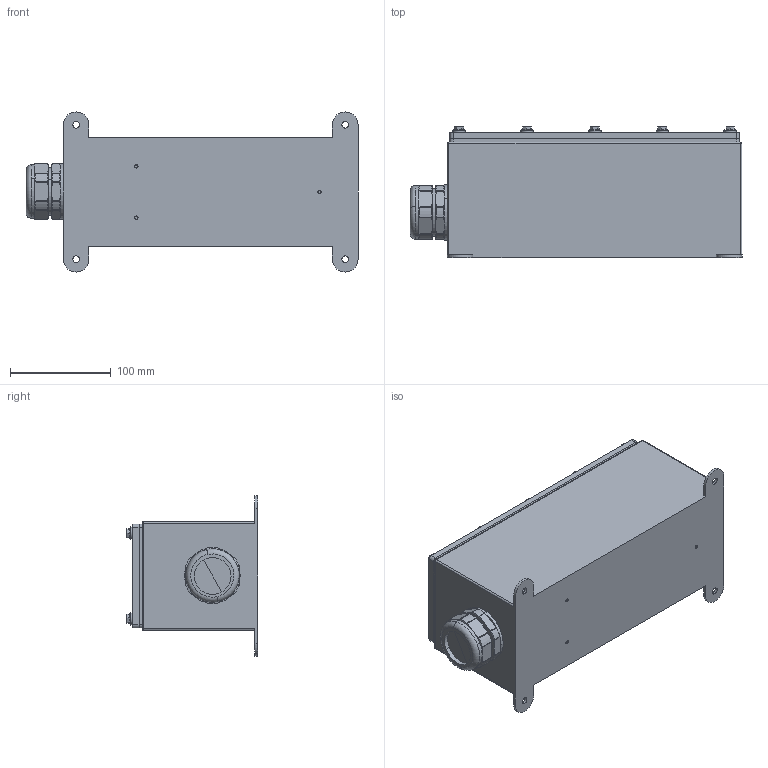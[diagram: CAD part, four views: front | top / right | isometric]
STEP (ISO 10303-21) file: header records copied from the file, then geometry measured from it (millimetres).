
FILE_DESCRIPTION (( 'STEP AP203' ), '1' );
FILE_NAME ('LL-EF.STEP', '2022-02-17T19:06:05', ( '' ), ( '' ), 'SwSTEP 2.0', 'SolidWorks 2021', '' );
FILE_SCHEMA (( 'CONFIG_CONTROL_DESIGN' ));
Length unit declared in the file: inch
Products named in the file (17): 400102; PG36-01-01-01-01; 200636; PG36-S01; SP-M5-2; 500211; PG36-B01; PG36-I01; 93805A256_93805A256; 800005; 400053; 200637; 800004; PG36-N01; LL-EF; 200292; 93625A150
Assembly tree (38 placements, depth 3):
  LL-EF
    200637
      200636
      SP-M5-2  x10
      93805A256_93805A256  x3
    200292
    400053
    500211
    PG36-01-01-01-01
      PG36-B01
      PG36-I01
      PG36-S01
      PG36-N01
    93625A150  x3
    800004  x10
      800005
      400102
Bounding box: 329.1 x 129.88 x 158.75 mm (x, y, z)
Volume: 644641.4 mm3; surface area: 438871.7 mm2
Topology: 48 solids, 48 shells, 2111 faces, 5495 edges, 3585 vertices
Faces by surface type: cylinder 984, plane 799, cone 275, bspline 38, torus 11, sphere 4
Entity records: 27240 total; most frequent: CARTESIAN_POINT 10668, ORIENTED_EDGE 3020, DIRECTION 2905, EDGE_CURVE 1510, AXIS2_PLACEMENT_3D 1126, VERTEX_POINT 979, EDGE_LOOP 705, LINE 653
